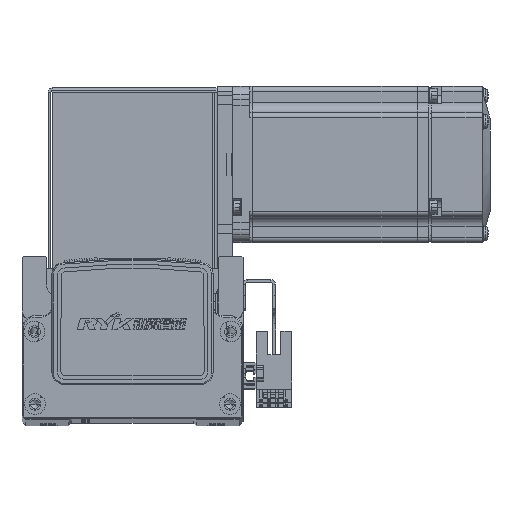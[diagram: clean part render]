
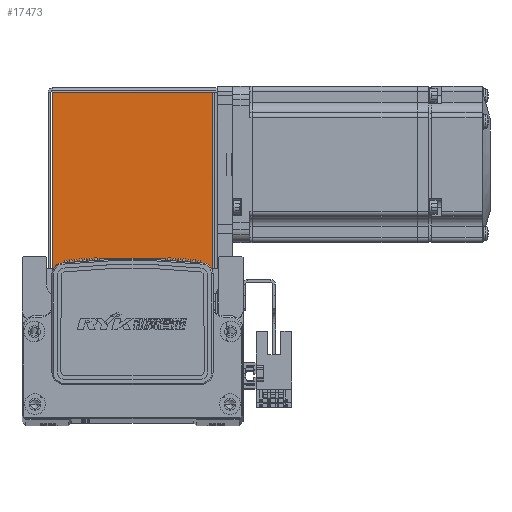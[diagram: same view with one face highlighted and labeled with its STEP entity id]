
A CAD part, top view. The second image highlights one B-rep face of the part: STEP entity #17473.
In plain terms, the highlighted planar face has unit normal (0, 0, 1) as drawn and (0, 0, -1) by its records, which use the part's own axes.
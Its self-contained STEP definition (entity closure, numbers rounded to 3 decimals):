
#1979 = CARTESIAN_POINT ( 'NONE',  ( -30.793, 0.737, -35. ) ) ;
#2090 = CARTESIAN_POINT ( 'NONE',  ( -30.793, 68.5, -35. ) ) ;
#3804 = AXIS2_PLACEMENT_3D ( 'NONE', #73178, #73189, #73180 ) ;
#12269 = FACE_OUTER_BOUND ( 'NONE', #43506, .T. ) ;
#12535 = LINE ( 'NONE', #79046, #12582 ) ;
#12538 = LINE ( 'NONE', #79012, #12601 ) ;
#12582 = VECTOR ( 'NONE', #79026, 1000. ) ;
#12586 = LINE ( 'NONE', #79037, #12588 ) ;
#12588 = VECTOR ( 'NONE', #79048, 1000. ) ;
#12601 = VECTOR ( 'NONE', #79041, 1000. ) ;
#17473 = ADVANCED_FACE ( 'NONE', ( #12269 ), #73209, .F. ) ;
#23702 = ORIENTED_EDGE ( 'NONE', *, *, #38101, .T. ) ;
#23716 = ORIENTED_EDGE ( 'NONE', *, *, #38047, .F. ) ;
#23756 = ORIENTED_EDGE ( 'NONE', *, *, #38033, .T. ) ;
#23772 = ORIENTED_EDGE ( 'NONE', *, *, #38045, .T. ) ;
#38033 = EDGE_CURVE ( 'NONE', #39378, #39355, #12538, .T. ) ;
#38045 = EDGE_CURVE ( 'NONE', #48435, #39378, #12535, .T. ) ;
#38047 = EDGE_CURVE ( 'NONE', #48374, #39355, #12586, .T. ) ;
#38101 = EDGE_CURVE ( 'NONE', #48374, #48435, #75189, .T. ) ;
#39355 = VERTEX_POINT ( 'NONE', #65989 ) ;
#39378 = VERTEX_POINT ( 'NONE', #65973 ) ;
#43506 = EDGE_LOOP ( 'NONE', ( #23756, #23716, #23702, #23772 ) ) ;
#48374 = VERTEX_POINT ( 'NONE', #1979 ) ;
#48435 = VERTEX_POINT ( 'NONE', #2090 ) ;
#65973 = CARTESIAN_POINT ( 'NONE',  ( 30.763, 68.5, -35. ) ) ;
#65989 = CARTESIAN_POINT ( 'NONE',  ( 30.763, 0.737, -35. ) ) ;
#73178 = CARTESIAN_POINT ( 'NONE',  ( 0., 0., -35. ) ) ;
#73180 = DIRECTION ( 'NONE',  ( 0., -1., 0. ) ) ;
#73189 = DIRECTION ( 'NONE',  ( 0., 0., 1. ) ) ;
#73209 = PLANE ( 'NONE',  #3804 ) ;
#75189 = LINE ( 'NONE', #79221, #75190 ) ;
#75190 = VECTOR ( 'NONE', #79214, 1000. ) ;
#79012 = CARTESIAN_POINT ( 'NONE',  ( 30.763, 68.5, -35. ) ) ;
#79026 = DIRECTION ( 'NONE',  ( 1., 0., 0. ) ) ;
#79037 = CARTESIAN_POINT ( 'NONE',  ( 32.5, 0.737, -35. ) ) ;
#79041 = DIRECTION ( 'NONE',  ( 0., -1., 0. ) ) ;
#79046 = CARTESIAN_POINT ( 'NONE',  ( 0., 68.5, -35. ) ) ;
#79048 = DIRECTION ( 'NONE',  ( 1., 0., 0. ) ) ;
#79214 = DIRECTION ( 'NONE',  ( 0., 1., 0. ) ) ;
#79221 = CARTESIAN_POINT ( 'NONE',  ( -30.793, 0., -35. ) ) ;
